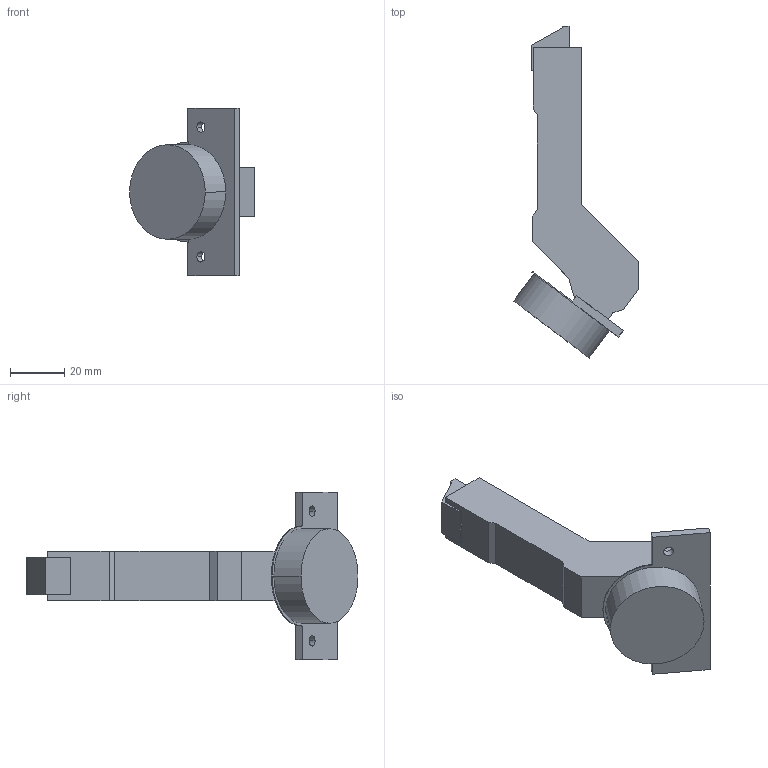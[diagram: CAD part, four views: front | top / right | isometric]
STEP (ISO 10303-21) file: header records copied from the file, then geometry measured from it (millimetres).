
FILE_DESCRIPTION (( 'STEP AP214' ), '1' );
FILE_NAME ('Scharnier T Click-on 110°_+37° S_BB, einliegend.step', '2010-12-13T10:22:01', ( 'grass' ), ( '' ), 'SwSTEP 2.0', 'SolidWorks 2010', '' );
FILE_SCHEMA (( 'AUTOMOTIVE_DESIGN' ));
Length unit declared in the file: millimetre
Products named in the file (1): Scharnier T Click-on 110°_+37° S_BB, einliegend
Bounding box: 46.13 x 122.73 x 62 mm (x, y, z)
Volume: 53443.3 mm3; surface area: 13990.4 mm2
Topology: 1 solids, 1 shells, 51 faces, 135 edges, 90 vertices
Faces by surface type: plane 37, cylinder 14
Entity records: 1619 total; most frequent: CARTESIAN_POINT 277, ORIENTED_EDGE 270, DIRECTION 267, EDGE_CURVE 135, VECTOR 107, LINE 107, VERTEX_POINT 90, AXIS2_PLACEMENT_3D 80
